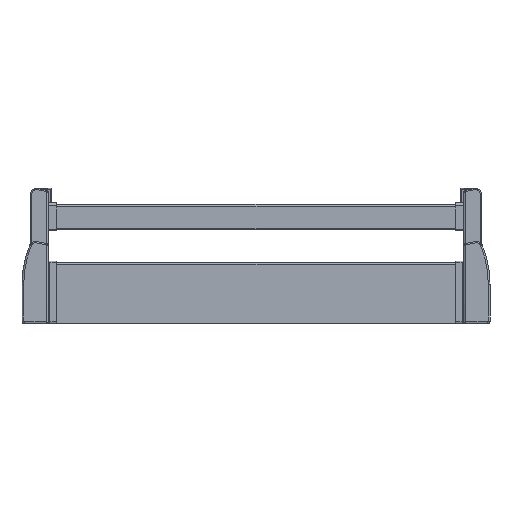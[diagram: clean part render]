
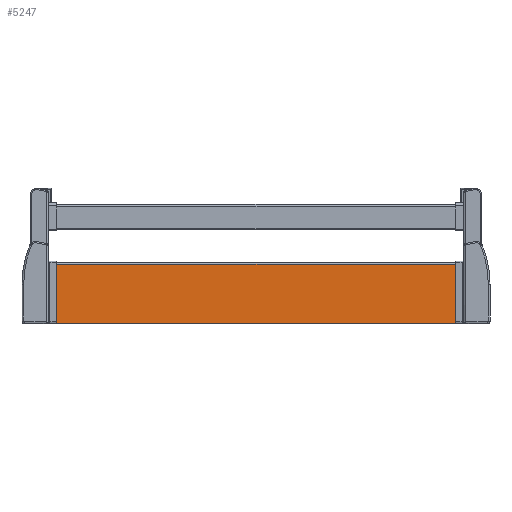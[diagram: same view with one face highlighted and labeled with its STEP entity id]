
A CAD part, top view. The second image highlights one B-rep face of the part: STEP entity #5247.
In plain terms, the highlighted planar face has unit normal (0, 0, 1).
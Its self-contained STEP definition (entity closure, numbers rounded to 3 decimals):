
#2065 = CARTESIAN_POINT ( 'NONE',  ( 235.8, -23., 1.4 ) ) ;
#2148 = DIRECTION ( 'NONE',  ( 0., 1., 0. ) ) ;
#2149 = VECTOR ( 'NONE', #2148, 1000. ) ;
#2150 = CARTESIAN_POINT ( 'NONE',  ( 235.8, -92.5, 1.4 ) ) ;
#2151 = LINE ( 'NONE', #2150, #2149 ) ;
#2152 = CARTESIAN_POINT ( 'NONE',  ( 235.8, -92.5, 1.4 ) ) ;
#3675 = DIRECTION ( 'NONE',  ( 0., 1., 0. ) ) ;
#3676 = CARTESIAN_POINT ( 'NONE',  ( -235.8, -92.5, 1.4 ) ) ;
#3677 = LINE ( 'NONE', #3676, #3730 ) ;
#3712 = DIRECTION ( 'NONE',  ( -1., 0., 0. ) ) ;
#3713 = VECTOR ( 'NONE', #3712, 1000. ) ;
#3714 = CARTESIAN_POINT ( 'NONE',  ( 309.556, -92.5, 1.4 ) ) ;
#3715 = LINE ( 'NONE', #3714, #3713 ) ;
#3720 = CARTESIAN_POINT ( 'NONE',  ( -235.8, -92.5, 1.4 ) ) ;
#3728 = CARTESIAN_POINT ( 'NONE',  ( -235.8, -23., 1.4 ) ) ;
#3730 = VECTOR ( 'NONE', #3675, 1000. ) ;
#4164 = VERTEX_POINT ( 'NONE', #2065 ) ;
#4227 = VERTEX_POINT ( 'NONE', #2152 ) ;
#4228 = EDGE_CURVE ( 'NONE', #4227, #4164, #2151, .T. ) ;
#5103 = EDGE_CURVE ( 'NONE', #5111, #5106, #3677, .T. ) ;
#5105 = EDGE_LOOP ( 'NONE', ( #5253, #5151, #5188, #5242 ) ) ;
#5106 = VERTEX_POINT ( 'NONE', #3728 ) ;
#5111 = VERTEX_POINT ( 'NONE', #3720 ) ;
#5113 = EDGE_CURVE ( 'NONE', #4227, #5111, #3715, .T. ) ;
#5151 = ORIENTED_EDGE ( 'NONE', *, *, #4228, .T. ) ;
#5188 = ORIENTED_EDGE ( 'NONE', *, *, #5197, .T. ) ;
#5197 = EDGE_CURVE ( 'NONE', #4164, #5106, #5830, .T. ) ;
#5242 = ORIENTED_EDGE ( 'NONE', *, *, #5103, .F. ) ;
#5247 = ADVANCED_FACE ( 'NONE', ( #5912 ), #5911, .F. ) ;
#5253 = ORIENTED_EDGE ( 'NONE', *, *, #5113, .F. ) ;
#5827 = DIRECTION ( 'NONE',  ( -1., 0., 0. ) ) ;
#5828 = VECTOR ( 'NONE', #5827, 1000. ) ;
#5829 = CARTESIAN_POINT ( 'NONE',  ( 309.556, -23., 1.4 ) ) ;
#5830 = LINE ( 'NONE', #5829, #5828 ) ;
#5905 = DIRECTION ( 'NONE',  ( 0., 1., 0. ) ) ;
#5906 = DIRECTION ( 'NONE',  ( 0., 0., -1. ) ) ;
#5907 = CARTESIAN_POINT ( 'NONE',  ( 309.556, -92.5, 1.4 ) ) ;
#5910 = AXIS2_PLACEMENT_3D ( 'NONE', #5907, #5906, #5905 ) ;
#5911 = PLANE ( 'NONE',  #5910 ) ;
#5912 = FACE_OUTER_BOUND ( 'NONE', #5105, .T. ) ;
